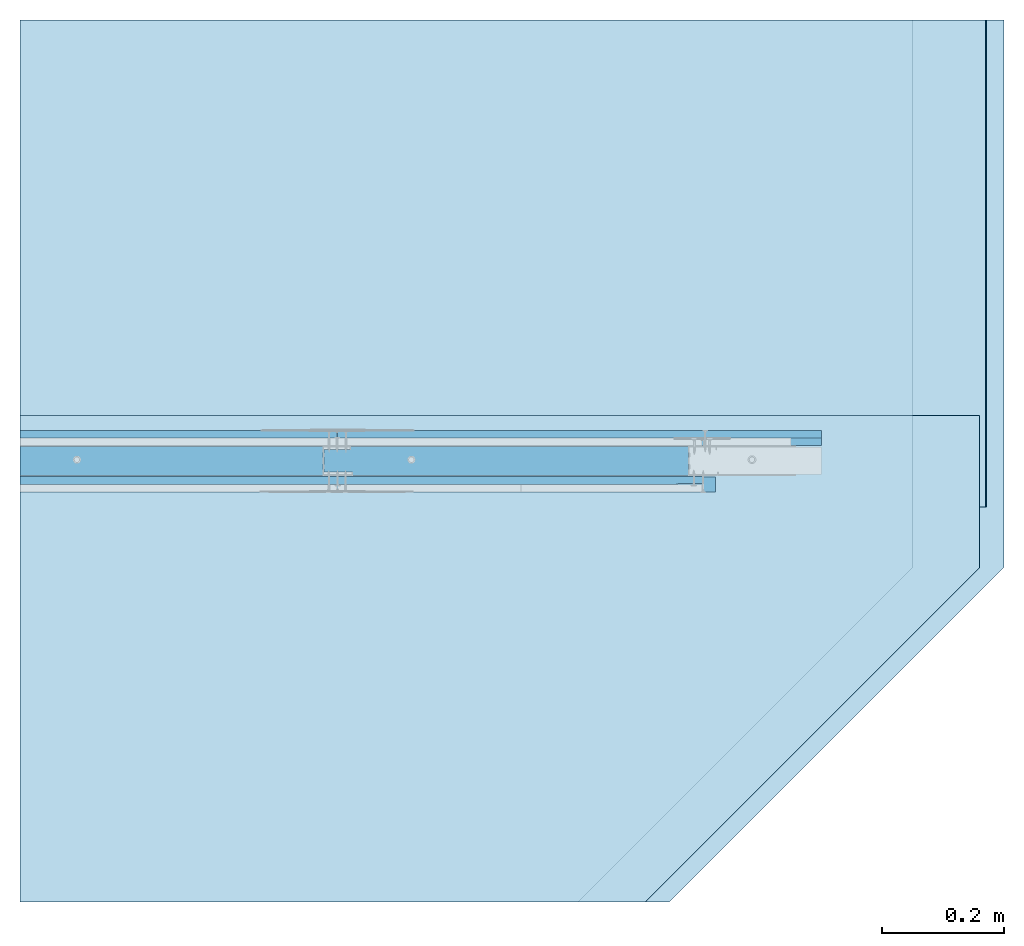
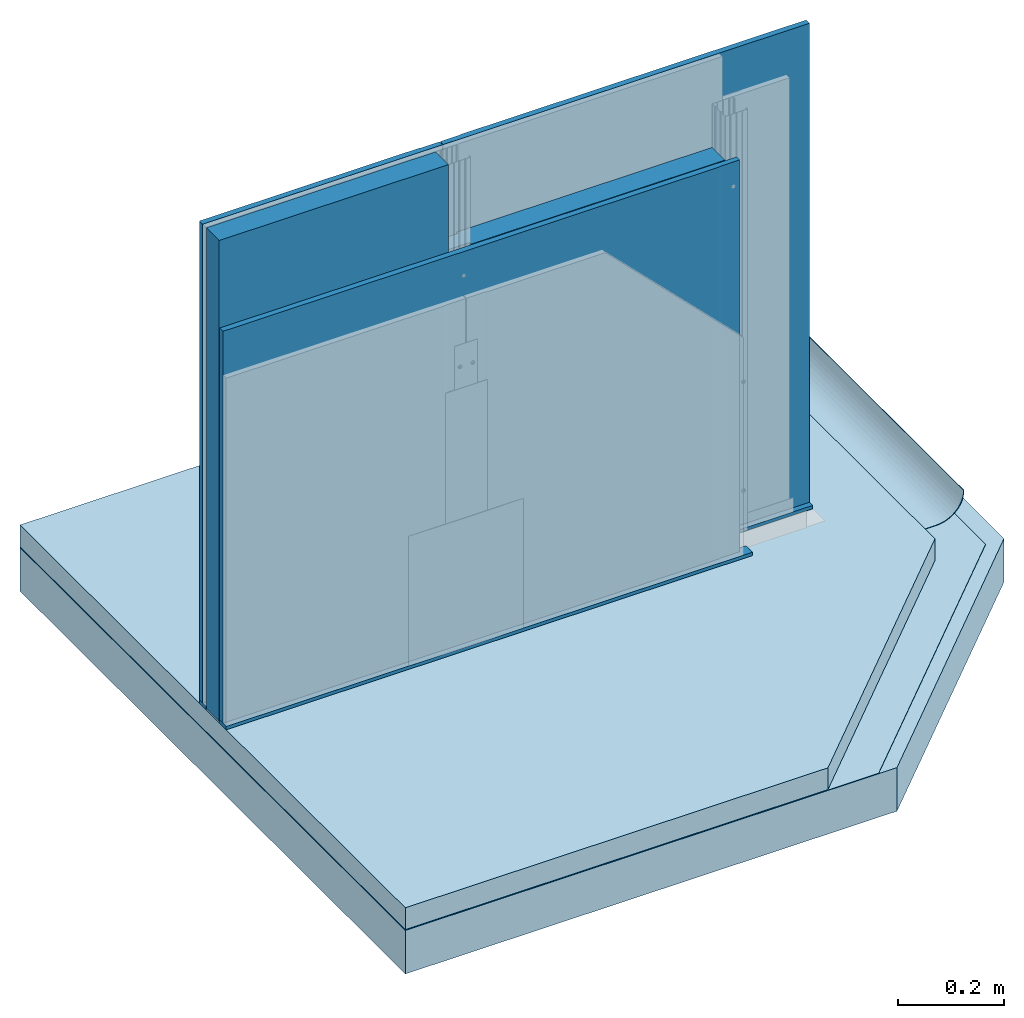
# One storey, part 1 of 37: 7 walls, 4 slabs.
"""IFC2X3 building model written with IfcOpenShell, lengths in millimetres."""

from ifc_helpers import new_model, entity, si_unit, converted_unit, direction, frame, origin, origin_with_axes, place, context, project, spatial, faceted_brep, element, save


model = new_model("IFC2X3")

# Units and contexts
model_context = context("Model", 3, precision=1e-05, world=origin(), true_north=direction((0.0, 1.0, 0.0)))
ifc_project = project(units=[si_unit("LENGTHUNIT", "METRE", prefix="MILLI"), si_unit("AREAUNIT", "SQUARE_METRE"), si_unit("VOLUMEUNIT", "CUBIC_METRE"), converted_unit("PLANEANGLEUNIT", "DEGREE", entity("IfcPlaneAngleMeasure", 0.01745), si_unit("PLANEANGLEUNIT", "RADIAN"), dimensions=[0, 0, 0, 0, 0, 0, 0]), si_unit("SOLIDANGLEUNIT", "STERADIAN"), si_unit("MASSUNIT", "GRAM"), si_unit("TIMEUNIT", "SECOND"), si_unit("THERMODYNAMICTEMPERATUREUNIT", "DEGREE_CELSIUS"), si_unit("LUMINOUSINTENSITYUNIT", "LUMEN")], contexts=[model_context])

# Site, building, storey
site_placement = place(None, origin_with_axes())
site = spatial("IfcSite", under=ifc_project, at=site_placement, Name="Default Site", CompositionType="ELEMENT")
building_placement = place(site_placement, origin_with_axes())
building = spatial("IfcBuilding", under=site, at=building_placement, Name="Default Building", CompositionType="ELEMENT")
storey_placement = place(building_placement, origin_with_axes())
storey = spatial("IfcBuildingStorey", under=building, at=storey_placement, Name="Default Building Storey", CompositionType="ELEMENT", Elevation=0.0)

# Slabs
slab_1_placement = place(storey_placement, frame((3516.951496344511, -1288.142300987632, 5.584025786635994), z_axis=(7.62017609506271e-14, 6.858158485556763e-13, 1.0), x_axis=(1.0, 9.714451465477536e-17, -7.62017609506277e-14)))
element("IfcSlab", 1, at=slab_1_placement, inside=storey, Name="STROP", context=model_context, shape_type="Brep", body=[
    faceted_brep([(226.0891218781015, 3110.283223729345, -4.200000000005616), (-323.9108781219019, 2560.283223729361, -4.200000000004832), (-323.9108781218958, 2560.283223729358, -104.1999999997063), (226.0891218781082, 3110.283223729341, -104.1999999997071), (-1391.926362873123, 2560.283223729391, -104.2000000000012), (-1391.926362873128, 2560.28322372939, -4.200000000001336), (-1391.926362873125, 4010.283223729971, -104.2000000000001), (226.0891218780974, 4010.283223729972, -104.2), (-1391.926362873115, 4010.283223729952, -4.199999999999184), (226.089121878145, 4010.283223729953, -4.200000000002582)], [[[0, 1, 2, 3]], [[4, 2, 1, 5]], [[6, 7, 3, 2, 4]], [[8, 5, 1, 0, 9]], [[0, 3, 7, 9]], [[6, 8, 9, 7]], [[6, 4, 5, 8]]]),
])
slab_2_placement = place(storey_placement, frame((3366.951496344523, -1288.14230098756, 107.5840257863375), z_axis=(7.620176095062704e-14, 6.858158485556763e-13, 1.0), x_axis=(1.0, 9.714451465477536e-17, -7.62017609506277e-14)))
element("IfcSlab", 2, at=slab_2_placement, inside=storey, Name="Wylewka betonowa WEBER", context=model_context, shape_type="Brep", body=[
    faceted_brep([(226.0891218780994, 3110.283223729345, -54.20000000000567), (-323.9108781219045, 2560.283223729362, -54.20000000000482), (-323.9108781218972, 2560.283223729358, -104.1999999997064), (226.0891218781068, 3110.283223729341, -104.1999999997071), (-1241.926362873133, 2560.283223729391, -104.2000000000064), (-1241.926362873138, 2560.283223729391, -54.20000000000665), (-1241.926362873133, 4010.283223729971, -104.2000000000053), (226.0891218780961, 4010.283223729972, -104.2), (-1241.926362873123, 4010.283223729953, -54.20000000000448), (226.089121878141, 4010.283223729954, -54.20000000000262)], [[[0, 1, 2, 3]], [[4, 2, 1, 5]], [[6, 7, 3, 2, 4]], [[8, 5, 1, 0, 9]], [[0, 3, 7, 9]], [[6, 8, 9, 7]], [[6, 4, 5, 8]]]),
])
slab_3_placement = place(storey_placement, frame((3714.040618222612, 1821.650871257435, 2.384025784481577), z_axis=(0.0, 0.0, 1.0), x_axis=(-3.885780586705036e-16, 1.0, 0.0)))
element("IfcSlab", 3, at=slab_3_placement, inside=storey, Name="Folia budowlana PE ISOVER Stopair®", context=model_context, shape_type="Brep", body=[
    faceted_brep([(99.99999999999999, 60.9999999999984, 0.9999999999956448), (900.4900514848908, 60.99999999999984, 0.9999999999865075), (900.4900514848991, 1589.015484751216, 0.9999999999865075), (100.000000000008, 1589.015484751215, 0.9999999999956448), (100.000000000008, 1589.015484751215, -4.353323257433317e-12), (900.4900514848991, 1589.015484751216, -1.349071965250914e-11), (99.99999999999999, 52.16842846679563, 0.5133083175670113), (99.99999999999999, 59.99999999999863, -4.353323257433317e-12), (900.4900514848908, 60.00000000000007, -1.349071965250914e-11), (900.4900514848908, 52.16842846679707, 0.513308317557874), (99.99999999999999, 44.4708572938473, 2.044450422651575), (900.4900514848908, 44.47085729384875, 2.044450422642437), (99.99999999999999, 37.03899405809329, 4.567228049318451), (900.4900514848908, 37.03899405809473, 4.567228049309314), (99.99999999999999, 29.99999999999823, 8.038475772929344), (900.4900514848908, 29.99999999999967, 8.038475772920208), (99.99999999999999, 23.4743142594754, 12.39879958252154), (900.4900514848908, 23.47431425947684, 12.3987995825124), (99.99999999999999, 17.57359312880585, 17.57359312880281), (900.4900514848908, 17.57359312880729, 17.57359312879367), (99.99999999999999, 12.39879958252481, 23.4743142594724), (900.4900514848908, 12.39879958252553, 23.47431425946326), (99.99999999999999, 8.038475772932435, 29.99999999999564), (900.4900514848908, 8.038475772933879, 29.9999999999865), (100.0000000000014, 4.567228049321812, 37.03899405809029), (900.4900514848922, 4.567228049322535, 37.03899405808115), (100.0000000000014, 2.044450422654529, 44.47085729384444), (900.4900514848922, 2.044450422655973, 44.4708572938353), (100.0000000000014, 0.5133083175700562, 52.16842846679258), (900.4900514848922, 0.5133083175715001, 52.16842846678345), (100.0000000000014, -1.443822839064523e-12, 59.99999999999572), (900.4900514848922, 0.0, 59.99999999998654), (100.0000000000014, 1.065543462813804, 59.99999999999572), (900.4900514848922, 1.065543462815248, 59.99999999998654), (100.0000000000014, 1.513308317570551, 53.16842846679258), (900.4900514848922, 1.513308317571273, 53.16842846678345), (100.0000000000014, 3.044450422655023, 45.47085729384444), (900.4900514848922, 3.044450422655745, 45.4708572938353), (100.0000000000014, 5.567228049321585, 38.03899405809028), (900.4900514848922, 5.567228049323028, 38.03899405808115), (99.99999999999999, 9.038475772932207, 30.99999999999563), (900.4900514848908, 9.038475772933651, 30.9999999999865), (99.99999999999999, 13.39879958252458, 24.47431425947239), (900.4900514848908, 13.39879958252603, 24.47431425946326), (99.99999999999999, 18.57359312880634, 18.5735931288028), (900.4900514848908, 18.57359312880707, 18.57359312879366), (99.99999999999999, 24.47431425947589, 13.39879958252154), (900.4900514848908, 24.47431425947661, 13.3987995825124), (99.99999999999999, 30.99999999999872, 9.038475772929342), (900.4900514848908, 31.00000000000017, 9.038475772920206), (99.99999999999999, 38.03899405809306, 5.567228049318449), (900.4900514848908, 38.0389940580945, 5.567228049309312), (99.99999999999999, 45.47085729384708, 3.044450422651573), (900.4900514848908, 45.47085729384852, 3.044450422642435), (99.99999999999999, 53.1684284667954, 1.513308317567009), (900.4900514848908, 53.16842846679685, 1.513308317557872)], [[[0, 1, 2, 3]], [[4, 3, 2, 5]], [[6, 7, 8, 9]], [[10, 6, 9, 11]], [[12, 10, 11, 13]], [[14, 12, 13, 15]], [[16, 14, 15, 17]], [[18, 16, 17, 19]], [[20, 18, 19, 21]], [[22, 20, 21, 23]], [[24, 22, 23, 25]], [[26, 24, 25, 27]], [[28, 26, 27, 29]], [[30, 28, 29, 31]], [[32, 30, 31, 33]], [[34, 32, 33, 35]], [[36, 34, 35, 37]], [[38, 36, 37, 39]], [[40, 38, 39, 41]], [[42, 40, 41, 43]], [[44, 42, 43, 45]], [[46, 44, 45, 47]], [[48, 46, 47, 49]], [[50, 48, 49, 51]], [[52, 50, 51, 53]], [[54, 52, 53, 55]], [[0, 54, 55, 1]], [[7, 4, 5, 8]], [[8, 5, 2, 1, 55, 53, 51, 49, 47, 45, 43, 41, 39, 37, 35, 33, 31, 29, 27, 25, 23, 21, 19, 17, 15, 13, 11, 9]], [[4, 7, 6, 10, 12, 14, 16, 18, 20, 22, 24, 26, 28, 30, 32, 34, 36, 38, 40, 42, 44, 46, 48, 50, 52, 54, 0, 3]]]),
])
slab_4_placement = place(storey_placement, frame((3460.316859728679, 1171.160819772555, 1.384025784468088), z_axis=(0.0, 0.0, 1.0), x_axis=(-3.885780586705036e-16, 1.0, 0.0)))
element("IfcSlab", 4, at=slab_4_placement, inside=storey, Name="Folia budowlana PE ISOVER Stopair®", context=model_context, shape_type="Brep", body=[
    faceted_brep([(650.9801029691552, -242.7237584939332, 0.999999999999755), (101.0000000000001, 307.2563444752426, 1.00000000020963), (101.0000000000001, 307.2563444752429, 2.09874595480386e-10), (650.9801029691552, -242.7237584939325, 0.0), (101.0000000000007, 1335.291726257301, 0.9999999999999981), (900.4900514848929, -242.7237584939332, 0.9999999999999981), (900.4900514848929, 1335.2917262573, 0.9999999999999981), (101.0000000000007, 1335.291726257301, 0.0), (900.4900514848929, -242.7237584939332, 0.0), (900.4900514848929, 1335.2917262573, 0.0)], [[[0, 1, 2, 3]], [[4, 1, 0, 5, 6]], [[7, 2, 1, 4]], [[8, 3, 2, 7, 9]], [[5, 8, 9, 6]], [[4, 6, 9, 7]], [[0, 3, 8, 5]]]),
])

# Walls
wall_1_placement = place(storey_placement, frame((2646.429648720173, 2034.640922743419, 1110.999999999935), z_axis=(0.0, 0.0, 1.0), x_axis=(-1.0, 0.0, 0.0)))
element("IfcWall", 5, at=wall_1_placement, inside=storey, Name="Płyta gipsowo-kartonowa RIGIPS PRO (4PRO™)", context=model_context, shape_type="Brep", body=[
    faceted_brep([(521.4045152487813, -12.4999999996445, 50.00000000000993), (521.4045152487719, 3.277477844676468e-10, 50.00000000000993), (521.404515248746, 3.241382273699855e-10, -1050.001581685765), (521.4045152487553, -12.49999999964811, -1050.001581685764), (44.99999999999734, -12.50000000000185, 50.00000000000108), (40.99999999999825, -11.50000000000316, 50.00000000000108), (0.9999999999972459, -11.50000000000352, 50.00000000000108), (0.7411809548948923, -11.46592582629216, 50.00000000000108), (0.4999999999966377, -11.36602540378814, 50.00000000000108), (0.2928932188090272, -11.20710678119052, 50.00000000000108), (0.1339745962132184, -11.00000000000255, 50.00000000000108), (0.0340741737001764, -10.75881904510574, 50.00000000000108), (-3.248601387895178e-12, -10.50000000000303, 50.00000000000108), (-1.082867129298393e-12, 3.609557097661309e-13, 50.00000000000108), (44.99999999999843, -12.50000000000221, -1050.001581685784), (40.99999999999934, -11.50000000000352, -1050.001581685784), (0.9999999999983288, -11.50000000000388, -1050.001581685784), (0.7411809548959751, -11.46592582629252, -1050.001581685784), (0.4999999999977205, -11.3660254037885, -1050.001581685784), (0.29289321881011, -11.20710678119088, -1050.001581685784), (0.1339745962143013, -11.00000000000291, -1050.001581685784), (0.03407417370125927, -10.7588190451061, -1050.001581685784), (-2.165734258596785e-12, -10.50000000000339, -1050.001581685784), (0.0, 0.0, -1050.001581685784)], [[[0, 1, 2, 3]], [[0, 4, 5, 6, 7, 8, 9, 10, 11, 12, 13, 1]], [[3, 14, 4, 0]], [[5, 4, 14, 15]], [[6, 5, 15, 16]], [[7, 6, 16, 17]], [[8, 7, 17, 18]], [[9, 8, 18, 19]], [[10, 9, 19, 20]], [[11, 10, 20, 21]], [[12, 11, 21, 22]], [[13, 12, 22, 23]], [[2, 1, 13, 23]], [[14, 3, 2, 23, 22, 21, 20, 19, 18, 17, 16, 15]]]),
])
wall_2_placement = place(storey_placement, frame((3443.040618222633, 2022.494753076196, 53.38402578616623), z_axis=(0.0, 0.0, 1.0), x_axis=(1.0, 0.0, 0.0)))
element("IfcWall", 6, at=wall_2_placement, inside=storey, Name="Dedykowana masa szpachlowa Rigips - konstrukcyjna", context=model_context, shape_type="Brep", body=[
    faceted_brep([(0.0, 24.6461696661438, 0.0), (0.0, 0.0, 0.0), (-1318.015484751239, 0.0, 0.0), (-1318.015484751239, 24.6461696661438, 0.0), (0.0, 0.0, 7.614392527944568), (-1318.015484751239, 0.0, 7.614392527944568), (0.0, 24.6461696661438, 7.614392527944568), (-1318.015484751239, 24.6461696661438, 7.614392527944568)], [[[0, 1, 2, 3]], [[1, 4, 5, 2]], [[4, 6, 7, 5]], [[6, 0, 3, 7]], [[7, 3, 2, 5]], [[0, 6, 4, 1]]]),
])
wall_3_placement = place(storey_placement, frame((2647.429648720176, 2034.640922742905, 1110.999999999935), z_axis=(0.0, 0.0, 1.0), x_axis=(1.0, 0.0, 0.0)))
element("IfcWall", 7, at=wall_3_placement, inside=storey, Name="Płyta gipsowo-kartonowa RIGIPS PRO (4PRO™)", context=model_context, shape_type="Brep", body=[
    faceted_brep([(795.6109695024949, 12.49999999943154, 49.99999999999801), (795.6109695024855, -5.40711653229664e-10, 49.99999999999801), (795.6109695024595, -5.371020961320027e-10, -1050.001581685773), (795.6109695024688, 12.49999999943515, -1050.001581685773), (44.99999999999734, 12.50000000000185, 50.00000000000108), (40.99999999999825, 11.50000000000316, 50.00000000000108), (0.9999999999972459, 11.50000000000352, 50.00000000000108), (0.7411809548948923, 11.46592582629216, 50.00000000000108), (0.4999999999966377, 11.36602540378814, 50.00000000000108), (0.2928932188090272, 11.20710678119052, 50.00000000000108), (0.1339745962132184, 11.00000000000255, 50.00000000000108), (0.0340741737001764, 10.75881904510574, 50.00000000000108), (-3.248601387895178e-12, 10.50000000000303, 50.00000000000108), (-1.082867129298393e-12, -3.609557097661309e-13, 50.00000000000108), (44.99999999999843, 12.50000000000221, -1050.001581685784), (40.99999999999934, 11.50000000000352, -1050.001581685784), (0.9999999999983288, 11.50000000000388, -1050.001581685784), (0.7411809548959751, 11.46592582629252, -1050.001581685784), (0.4999999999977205, 11.3660254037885, -1050.001581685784), (0.29289321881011, 11.20710678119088, -1050.001581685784), (0.1339745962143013, 11.00000000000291, -1050.001581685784), (0.03407417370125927, 10.7588190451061, -1050.001581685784), (-2.165734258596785e-12, 10.50000000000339, -1050.001581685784), (0.0, 0.0, -1050.001581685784)], [[[0, 1, 2, 3]], [[0, 4, 5, 6, 7, 8, 9, 10, 11, 12, 13, 1]], [[3, 14, 4, 0]], [[5, 4, 14, 15]], [[6, 5, 15, 16]], [[7, 6, 16, 17]], [[8, 7, 17, 18]], [[9, 8, 18, 19]], [[10, 9, 19, 20]], [[11, 10, 20, 21]], [[12, 11, 21, 22]], [[13, 12, 22, 23]], [[2, 1, 13, 23]], [[14, 3, 2, 23, 22, 21, 20, 19, 18, 17, 16, 15]]]),
])
wall_4_placement = place(storey_placement, frame((2048.4296487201, 1971.180077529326, 1210.999999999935), z_axis=(0.0, 0.0, 1.0), x_axis=(1.0, 0.0, 0.0)))
element("IfcWall", 8, at=wall_4_placement, inside=storey, Name="Płyta gipsowo-kartonowa RIGIPS PRO (4PRO™)", context=model_context, shape_type="Brep", body=[
    faceted_brep([(76.59548475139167, 0.0, -249.9999999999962), (76.59548475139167, -12.50000000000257, -249.9999999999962), (76.59548475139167, -12.50000000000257, -1150.001581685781), (76.59548475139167, 0.0, -1150.001581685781), (1200.0, 0.0, -249.9999999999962), (1200.000000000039, -10.49999999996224, -249.9999999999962), (1199.965925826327, -10.75881904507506, -249.9999999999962), (1199.866025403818, -10.99999999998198, -249.9999999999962), (1199.707106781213, -11.20710678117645, -249.9999999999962), (1199.50000000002, -11.36602540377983, -249.9999999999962), (1199.258819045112, -11.46592582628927, -249.9999999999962), (1199.0, -11.50000000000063, -249.9999999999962), (1158.999999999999, -11.50000000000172, -249.9999999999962), (1155.000000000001, -12.49999999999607, -249.9999999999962), (1199.965925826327, -10.75881904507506, -1150.001581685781), (1199.866025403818, -10.99999999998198, -1150.001581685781), (1199.707106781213, -11.20710678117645, -1150.001581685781), (1199.50000000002, -11.36602540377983, -1150.001581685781), (1199.258819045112, -11.46592582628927, -1150.001581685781), (1199.0, -11.50000000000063, -1150.001581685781), (1158.999999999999, -11.50000000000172, -1150.001581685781), (1155.000000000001, -12.49999999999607, -1150.001581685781), (1200.0, 0.0, -1150.001581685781), (1200.000000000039, -10.49999999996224, -1150.001581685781)], [[[0, 1, 2, 3]], [[0, 4, 5, 6, 7, 8, 9, 10, 11, 12, 13, 1]], [[7, 6, 14, 15]], [[8, 7, 15, 16]], [[9, 8, 16, 17]], [[10, 9, 17, 18]], [[11, 10, 18, 19]], [[12, 11, 19, 20]], [[13, 12, 20, 21]], [[2, 1, 13, 21]], [[3, 22, 4, 0]], [[5, 4, 22, 23]], [[6, 5, 23, 14]], [[14, 23, 22, 3, 2, 21, 20, 19, 18, 17, 16, 15]]]),
])
wall_5_placement = place(storey_placement, frame((3268.31475601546, 1946.180077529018, 53.38402578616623), z_axis=(0.0, 0.0, 1.0), x_axis=(1.0, 0.0, 0.0)))
element("IfcWall", 9, at=wall_5_placement, inside=storey, Name="Dedykowana masa szpachlowa Rigips - konstrukcyjna", context=model_context, shape_type="Brep", body=[
    faceted_brep([(0.0, 24.6461696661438, 0.0), (0.0, 0.0, 0.0), (-1143.289622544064, 0.0, 0.0), (-1143.289622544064, 24.6461696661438, 0.0), (0.0, 0.0, 7.614392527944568), (-1143.289622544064, 0.0, 7.614392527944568), (0.0, 24.6461696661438, 7.614392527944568), (-1143.289622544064, 24.6461696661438, 7.614392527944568)], [[[0, 1, 2, 3]], [[1, 4, 5, 2]], [[4, 6, 7, 5]], [[6, 0, 3, 7]], [[7, 3, 2, 5]], [[0, 6, 4, 1]]]),
])
wall_6_placement = place(storey_placement, frame((2172.059826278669, 5452.424146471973, 59.67213791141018), z_axis=(0.0, 0.0, 1.0), x_axis=(1.0, 0.0, 0.0)))
element("IfcWall", 10, at=wall_6_placement, inside=storey, Name="Wełna mineralna szklana lub skalna ISOVER", context=model_context, shape_type="Brep", body=[
    faceted_brep([(-47.03469280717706, -3431.283223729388, 1101.327862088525), (-47.0346928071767, -3479.633223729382, 1101.327862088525), (-47.03469280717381, -3479.633223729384, -2.931742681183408), (-47.03469280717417, -3431.283223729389, -2.931742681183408), (450.8097109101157, -3431.283223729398, -2.931742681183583), (450.8097109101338, -3431.283223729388, 1101.327862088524), (450.8097109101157, -3479.633223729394, -2.931742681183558), (450.8097109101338, -3479.633223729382, 1101.327862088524)], [[[0, 1, 2, 3]], [[3, 4, 5, 0]], [[2, 6, 4, 3]], [[2, 1, 7, 6]], [[0, 5, 7, 1]], [[6, 7, 5, 4]]]),
])
wall_7_placement = place(storey_placement, frame((2786.490947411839, 5452.424146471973, 59.80061149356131), z_axis=(0.0, 0.0, 1.0), x_axis=(1.0, 0.0, 0.0)))
element("IfcWall", 11, at=wall_7_placement, inside=storey, Name="Wełna mineralna szklana lub skalna ISOVER", context=model_context, shape_type="Brep", body=[
    faceted_brep([(-161.2958819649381, -3473.633223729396, -3.060216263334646), (-161.2958819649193, -3473.633223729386, 901.1993885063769), (-114.6214102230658, -3473.633223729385, 901.1993885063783), (-114.6214102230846, -3473.633223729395, -3.060216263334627), (-114.6214102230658, -3479.633223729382, 901.1993885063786), (-114.6214102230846, -3479.633223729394, -3.060216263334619), (-161.2958819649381, -3436.833223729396, -3.060216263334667), (-161.2958819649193, -3436.833223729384, 901.1993885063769), (-117.6214102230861, -3436.833223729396, -3.060216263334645), (-117.6214102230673, -3436.833223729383, 901.199388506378), (-117.6214102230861, -3431.283223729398, -3.060216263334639), (437.5658080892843, -3431.283223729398, -3.060216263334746), (437.5658080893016, -3431.283223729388, 901.1993885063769), (-117.6214102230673, -3431.283223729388, 901.1993885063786), (437.5658080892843, -3479.633223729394, -3.060216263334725), (437.5658080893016, -3479.633223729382, 901.1993885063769)], [[[0, 1, 2, 3]], [[3, 2, 4, 5]], [[1, 0, 6, 7]], [[7, 6, 8, 9]], [[10, 11, 12, 13]], [[9, 8, 10, 13]], [[3, 5, 14, 11, 10, 8, 6, 0]], [[4, 15, 14, 5]], [[15, 4, 2, 1, 7, 9, 13, 12]], [[14, 15, 12, 11]]]),
])

save(model, "model.ifc")
